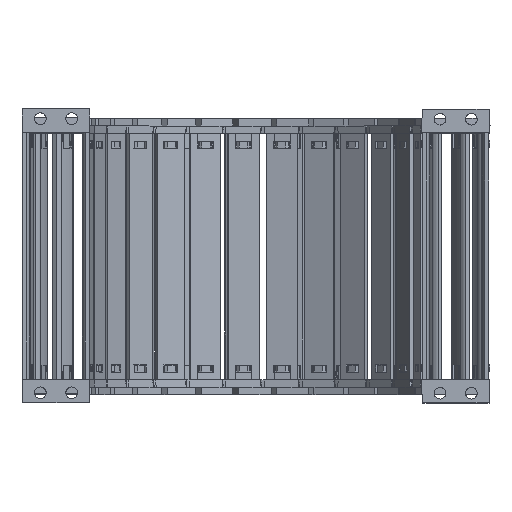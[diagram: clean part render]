
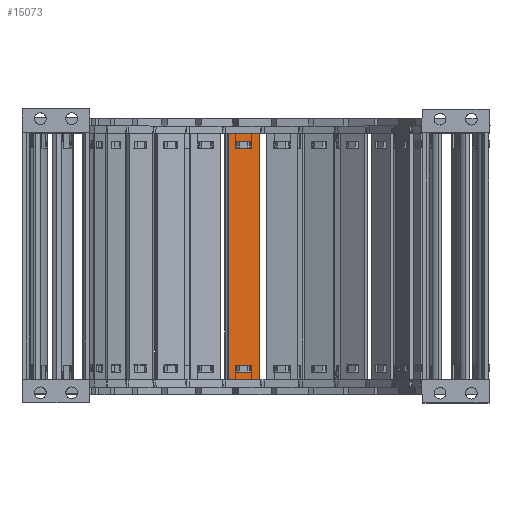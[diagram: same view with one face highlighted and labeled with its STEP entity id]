
A CAD part, top view. The second image highlights one B-rep face of the part: STEP entity #15073.
In plain terms, the highlighted planar face has unit normal (0.048, 0, 0.999).
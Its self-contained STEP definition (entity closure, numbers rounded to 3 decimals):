
#162=FACE_BOUND('',#30481,.T.);
#163=FACE_BOUND('',#30482,.T.);
#164=FACE_BOUND('',#30483,.T.);
#8711=PLANE('',#146224);
#15073=ADVANCED_FACE('',(#162,#163,#164),#8711,.F.);
#30481=EDGE_LOOP('',(#63649,#63650,#63651,#63652));
#30482=EDGE_LOOP('',(#63653,#63654,#63655,#63656));
#30483=EDGE_LOOP('',(#63657,#63658,#63659,#63660));
#63649=ORIENTED_EDGE('',*,*,#104155,.F.);
#63650=ORIENTED_EDGE('',*,*,#104126,.F.);
#63651=ORIENTED_EDGE('',*,*,#104160,.F.);
#63652=ORIENTED_EDGE('',*,*,#104137,.F.);
#63653=ORIENTED_EDGE('',*,*,#104172,.F.);
#63654=ORIENTED_EDGE('',*,*,#104165,.F.);
#63655=ORIENTED_EDGE('',*,*,#104204,.F.);
#63656=ORIENTED_EDGE('',*,*,#104179,.T.);
#63657=ORIENTED_EDGE('',*,*,#104202,.T.);
#63658=ORIENTED_EDGE('',*,*,#104205,.F.);
#63659=ORIENTED_EDGE('',*,*,#104206,.F.);
#63660=ORIENTED_EDGE('',*,*,#104207,.F.);
#86184=VERTEX_POINT('',#224477);
#86185=VERTEX_POINT('',#224479);
#86191=VERTEX_POINT('',#224494);
#86194=VERTEX_POINT('',#224500);
#86211=VERTEX_POINT('',#224557);
#86212=VERTEX_POINT('',#224558);
#86218=VERTEX_POINT('',#224572);
#86221=VERTEX_POINT('',#224580);
#86234=VERTEX_POINT('',#224627);
#86235=VERTEX_POINT('',#224629);
#86236=VERTEX_POINT('',#224634);
#86237=VERTEX_POINT('',#224636);
#104126=EDGE_CURVE('',#86184,#86185,#119852,.T.);
#104137=EDGE_CURVE('',#86194,#86191,#119863,.T.);
#104155=EDGE_CURVE('',#86185,#86194,#119878,.T.);
#104160=EDGE_CURVE('',#86191,#86184,#119883,.T.);
#104165=EDGE_CURVE('',#86211,#86212,#119888,.T.);
#104172=EDGE_CURVE('',#86212,#86218,#119895,.T.);
#104179=EDGE_CURVE('',#86221,#86218,#119902,.T.);
#104202=EDGE_CURVE('',#86235,#86234,#119916,.T.);
#104204=EDGE_CURVE('',#86221,#86211,#119918,.T.);
#104205=EDGE_CURVE('',#86236,#86234,#119919,.T.);
#104206=EDGE_CURVE('',#86237,#86236,#119920,.T.);
#104207=EDGE_CURVE('',#86235,#86237,#119921,.T.);
#119852=LINE('',#224478,#133314);
#119863=LINE('',#224501,#133325);
#119878=LINE('',#224536,#133340);
#119883=LINE('',#224545,#133345);
#119888=LINE('',#224556,#133350);
#119895=LINE('',#224571,#133357);
#119902=LINE('',#224584,#133364);
#119916=LINE('',#224628,#133378);
#119918=LINE('',#224632,#133380);
#119919=LINE('',#224633,#133381);
#119920=LINE('',#224635,#133382);
#119921=LINE('',#224637,#133383);
#133314=VECTOR('',#175489,1.);
#133325=VECTOR('',#175504,1.);
#133340=VECTOR('',#175539,1.);
#133345=VECTOR('',#175548,1.);
#133350=VECTOR('',#175557,1.);
#133357=VECTOR('',#175566,1.);
#133364=VECTOR('',#175575,1.);
#133378=VECTOR('',#175625,1.);
#133380=VECTOR('',#175629,1.);
#133381=VECTOR('',#175630,1.);
#133382=VECTOR('',#175631,1.);
#133383=VECTOR('',#175632,1.);
#146224=AXIS2_PLACEMENT_3D('',#224638,#175633,#175634);
#175489=DIRECTION('',(0.999,0.,-0.048));
#175504=DIRECTION('',(-0.999,0.,0.048));
#175539=DIRECTION('',(0.,1.,0.));
#175548=DIRECTION('',(0.,-1.,0.));
#175557=DIRECTION('',(-0.999,0.,0.048));
#175566=DIRECTION('',(0.,-1.,0.));
#175575=DIRECTION('',(-0.999,0.,0.048));
#175625=DIRECTION('',(0.,-1.,0.));
#175629=DIRECTION('',(0.,1.,0.));
#175630=DIRECTION('',(-0.999,0.,0.048));
#175631=DIRECTION('',(0.,-1.,0.));
#175632=DIRECTION('',(0.999,0.,-0.048));
#175633=DIRECTION('',(-0.048,0.,-0.999));
#175634=DIRECTION('',(-0.999,0.,0.048));
#224477=CARTESIAN_POINT('',(-112.088,-121.53,-104.598));
#224478=CARTESIAN_POINT('',(-112.088,-121.53,-104.598));
#224479=CARTESIAN_POINT('',(-103.947,-121.53,-104.989));
#224494=CARTESIAN_POINT('',(-112.088,-117.882,-104.598));
#224500=CARTESIAN_POINT('',(-103.947,-117.882,-104.989));
#224501=CARTESIAN_POINT('',(-103.947,-117.882,-104.989));
#224536=CARTESIAN_POINT('',(-103.947,-152.96,-104.989));
#224545=CARTESIAN_POINT('',(-112.088,-149.36,-104.598));
#224556=CARTESIAN_POINT('',(-103.947,-3.97,-104.989));
#224557=CARTESIAN_POINT('',(-103.947,-3.97,-104.989));
#224558=CARTESIAN_POINT('',(-112.088,-3.97,-104.598));
#224571=CARTESIAN_POINT('',(-112.088,-3.97,-104.598));
#224572=CARTESIAN_POINT('',(-112.088,-7.618,-104.598));
#224580=CARTESIAN_POINT('',(-103.947,-7.618,-104.989));
#224584=CARTESIAN_POINT('',(-103.947,-7.618,-104.989));
#224627=CARTESIAN_POINT('',(-115.908,-125.5,-104.414));
#224628=CARTESIAN_POINT('',(-115.908,0.,-104.414));
#224629=CARTESIAN_POINT('',(-115.908,0.,-104.414));
#224632=CARTESIAN_POINT('',(-103.947,-7.618,-104.989));
#224633=CARTESIAN_POINT('',(-100.127,-125.5,-105.172));
#224634=CARTESIAN_POINT('',(-100.127,-125.5,-105.172));
#224635=CARTESIAN_POINT('',(-100.127,0.,-105.172));
#224636=CARTESIAN_POINT('',(-100.127,0.,-105.172));
#224637=CARTESIAN_POINT('',(-115.908,0.,-104.414));
#224638=CARTESIAN_POINT('',(-97.969,31.74,-105.276));
